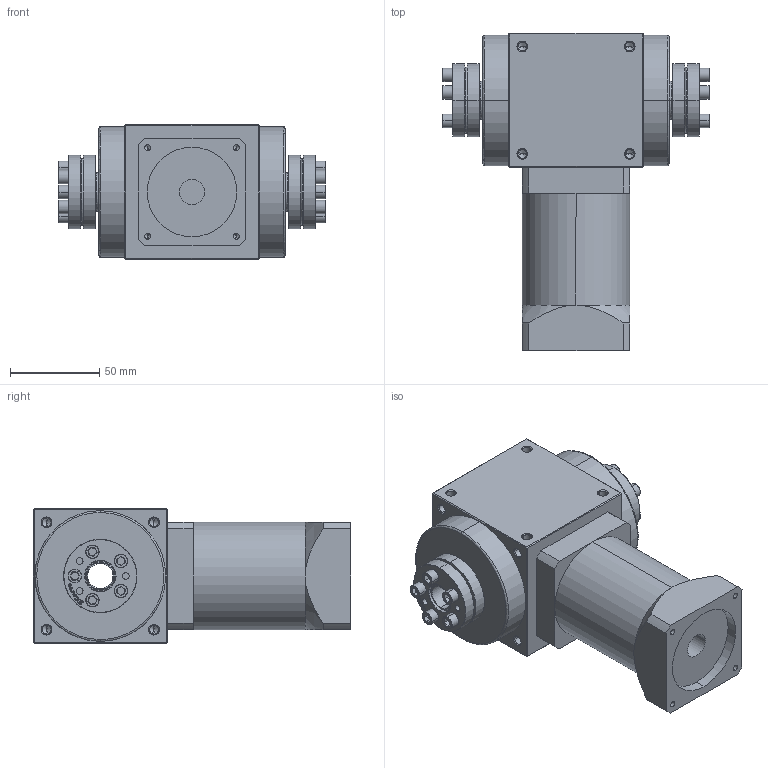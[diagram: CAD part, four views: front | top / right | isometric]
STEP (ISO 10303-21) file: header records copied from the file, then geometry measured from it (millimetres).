
FILE_DESCRIPTION (( 'STEP AP214' ), '1' );
FILE_NAME ('AT075-FC-L2(12~100)--14-50-70-M4.STEP', '2020-10-08T06:48:19', ( '微软用户' ), ( '微软中国' ), 'SwSTEP 2.0', 'SolidWorks 2014', '' );
FILE_SCHEMA (( 'AUTOMOTIVE_DESIGN' ));
Length unit declared in the file: millimetre
Products named in the file (6): 83_16x41; AT075-FC-L2-400W; AT075-FC-L2(12~100)--14-50-70-M4
Assembly tree (3 placements, depth 2):
  83_16x41
  AT075-FC-L2-400W
  AT075-FC-L2(12~100)--14-50-70-M4
    AT075-FC-L2-400W
    83_16x41  x2
  83_16x41
Bounding box: 149 x 177.5 x 75 mm (x, y, z)
Volume: 858067 mm3; surface area: 98415.2 mm2
Topology: 19 solids, 19 shells, 957 faces, 2308 edges, 1388 vertices
Faces by surface type: cylinder 410, plane 247, cone 216, bspline 44, torus 40
Entity records: 18417 total; most frequent: CARTESIAN_POINT 4253, DIRECTION 2996, ORIENTED_EDGE 2900, EDGE_CURVE 1450, AXIS2_PLACEMENT_3D 1159, VERTEX_POINT 886, EDGE_LOOP 700, LINE 678
